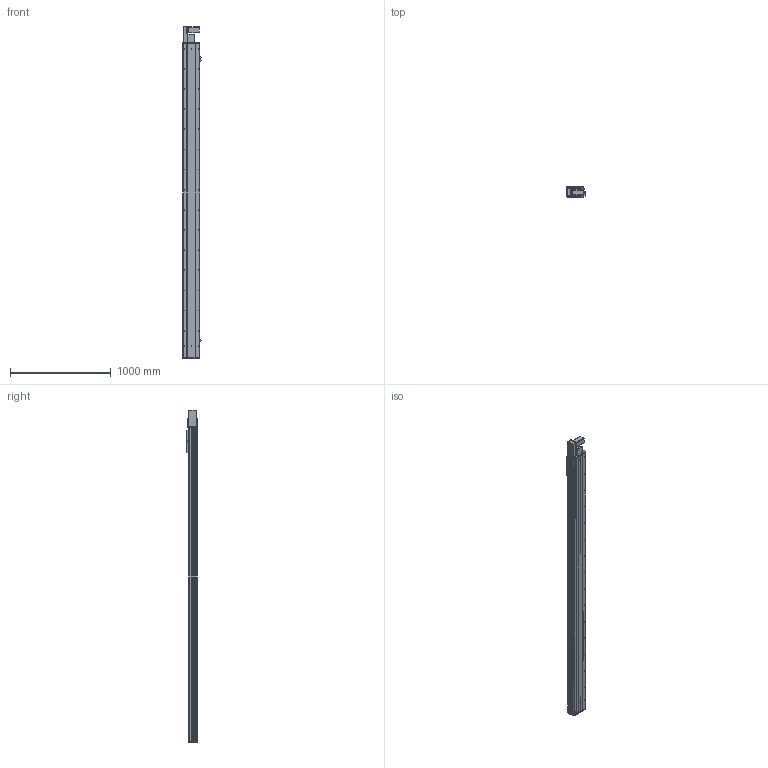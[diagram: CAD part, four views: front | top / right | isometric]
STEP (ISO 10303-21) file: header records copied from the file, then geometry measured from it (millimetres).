
FILE_DESCRIPTION (( 'STEP AP203' ), '1' );
FILE_NAME ('Y170CB-D105-S2800-BL-P400W.STEP', '2020-02-20T01:53:46', ( '微软用户' ), ( '微软中国' ), 'SwSTEP 2.0', 'SolidWorks 2017', '' );
FILE_SCHEMA (( 'CONFIG_CONTROL_DESIGN' ));
Length unit declared in the file: millimetre
Products named in the file (18): B-源倛裔啣; 70C-雄赽釱-奻-; 17B-耜蚾蟀諉啣----; 0C--雄赽釱俋欶-170; 0B-萇儂楊擘啣; 70CB-詩湍--; san松下电机400不带刹车----; Y100-135俋离換覜ん--; Y70俋欶BR----; Y170CB-陔俋离換覜結え---; 70CB-掛极-; 70B喘謫眊----; --70CB --喘謫眊楊擘啣-; Y1埴倛裔; 70CB-耜裔啣-; Y170CB-D105-S2800-BL-P400W; 70CB--耜裔; 70C--詩湍揤踡え-
Assembly tree (21 placements, depth 2):
  Y170CB-D105-S2800-BL-P400W
    B-源倛裔啣
    17B-耜蚾蟀諉啣----
    0B-萇儂楊擘啣
    san松下电机400不带刹车----
    Y70俋欶BR----
    70CB-掛极-
    --70CB --喘謫眊楊擘啣-
    70CB-耜裔啣-  x2
    70C--詩湍揤踡え-  x2
    70CB--耜裔
    70C-雄赽釱-奻-
    0C--雄赽釱俋欶-170
    70CB-詩湍--
    Y100-135俋离換覜ん--  x3
    Y170CB-陔俋离換覜結え---
    70B喘謫眊----
    Y1埴倛裔
Bounding box: 183.5 x 107 x 3297 mm (x, y, z)
Volume: 13624848.1 mm3; surface area: 4921691.6 mm2
Topology: 21 solids, 21 shells, 1079 faces, 2909 edges, 1930 vertices
Faces by surface type: cylinder 591, plane 464, cone 24
Entity records: 34656 total; most frequent: CARTESIAN_POINT 6396, DIRECTION 5638, ORIENTED_EDGE 5300, EDGE_CURVE 2650, AXIS2_PLACEMENT_3D 2084, VERTEX_POINT 1760, VECTOR 1470, LINE 1470
